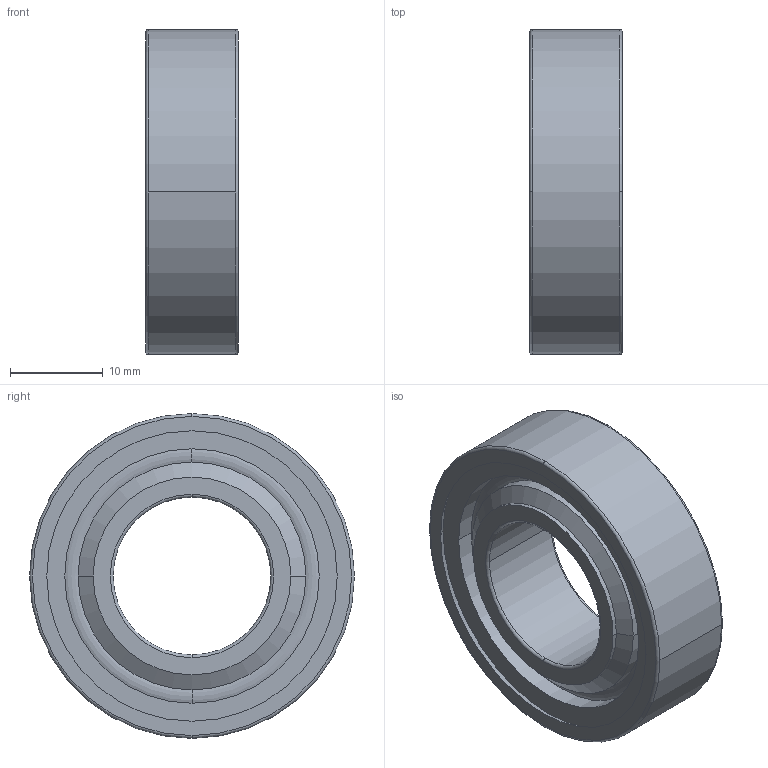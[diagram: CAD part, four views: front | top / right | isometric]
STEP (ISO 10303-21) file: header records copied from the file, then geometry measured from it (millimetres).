
FILE_DESCRIPTION(('STEP AP214'),'1');
FILE_NAME('snr_6003_0.stp','2023-09-27T00:19:08',('TraceParts'),('TraceParts S.A.'),'Spatial InterOp 3D',' ',' ');
FILE_SCHEMA(('AUTOMOTIVE_DESIGN { 1 0 10303 214 1 1 1 1 }'));
Length unit declared in the file: millimetre
Products named in the file (1): snr_6003_0_1
Bounding box: 10 x 35 x 35 mm (x, y, z)
Volume: 6156.1 mm3; surface area: 5952.2 mm2
Topology: 3 solids, 3 shells, 50 faces, 120 edges, 76 vertices
Faces by surface type: torus 20, cylinder 16, cone 8, plane 6
Entity records: 1539 total; most frequent: DIRECTION 322, CARTESIAN_POINT 249, ORIENTED_EDGE 240, AXIS2_PLACEMENT_3D 149, EDGE_CURVE 120, CIRCLE 96, VERTEX_POINT 76, EDGE_LOOP 56
